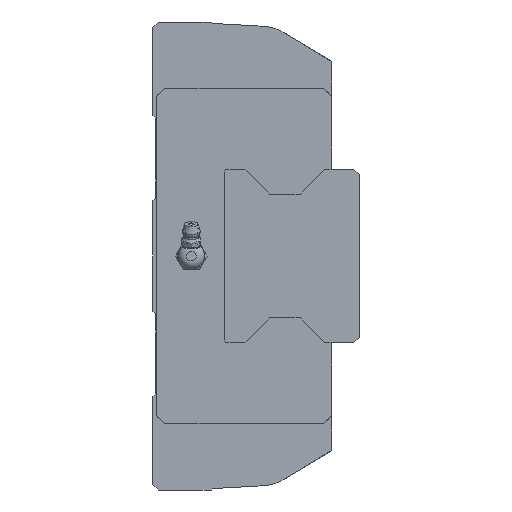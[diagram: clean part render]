
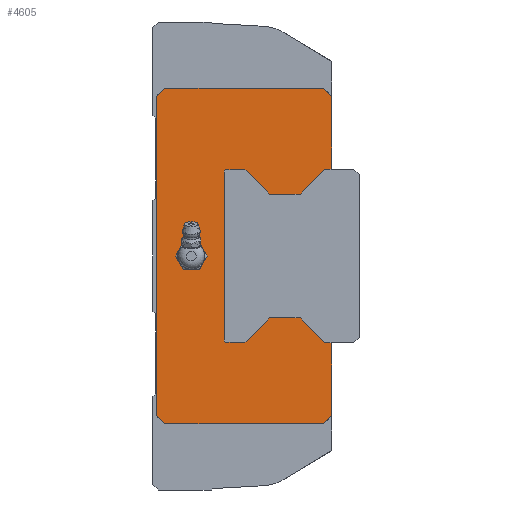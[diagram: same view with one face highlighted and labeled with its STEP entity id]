
A CAD part, left-side view. The second image highlights one B-rep face of the part: STEP entity #4605.
In plain terms, the highlighted planar face has unit normal (-1, 0, 0).
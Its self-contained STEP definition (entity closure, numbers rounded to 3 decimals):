
#261=CIRCLE('',#5001,4.864);
#262=CIRCLE('',#5002,1.);
#263=CIRCLE('',#5003,1.);
#760=ORIENTED_EDGE('',*,*,#1838,.T.);
#761=ORIENTED_EDGE('',*,*,#1839,.T.);
#762=ORIENTED_EDGE('',*,*,#1825,.F.);
#763=ORIENTED_EDGE('',*,*,#1787,.F.);
#764=ORIENTED_EDGE('',*,*,#1783,.F.);
#765=ORIENTED_EDGE('',*,*,#1775,.F.);
#766=ORIENTED_EDGE('',*,*,#1811,.F.);
#767=ORIENTED_EDGE('',*,*,#1760,.F.);
#768=ORIENTED_EDGE('',*,*,#1798,.F.);
#769=ORIENTED_EDGE('',*,*,#1795,.F.);
#770=ORIENTED_EDGE('',*,*,#1827,.F.);
#771=ORIENTED_EDGE('',*,*,#1840,.T.);
#772=ORIENTED_EDGE('',*,*,#1841,.T.);
#773=ORIENTED_EDGE('',*,*,#1842,.T.);
#774=ORIENTED_EDGE('',*,*,#1843,.T.);
#775=ORIENTED_EDGE('',*,*,#1844,.T.);
#776=ORIENTED_EDGE('',*,*,#1845,.T.);
#777=ORIENTED_EDGE('',*,*,#1846,.T.);
#778=ORIENTED_EDGE('',*,*,#1847,.T.);
#779=ORIENTED_EDGE('',*,*,#1805,.T.);
#780=ORIENTED_EDGE('',*,*,#1848,.T.);
#781=ORIENTED_EDGE('',*,*,#1849,.T.);
#782=ORIENTED_EDGE('',*,*,#1850,.T.);
#783=ORIENTED_EDGE('',*,*,#1851,.T.);
#784=ORIENTED_EDGE('',*,*,#1852,.T.);
#785=ORIENTED_EDGE('',*,*,#1853,.T.);
#786=ORIENTED_EDGE('',*,*,#1854,.T.);
#1760=EDGE_CURVE('',#2349,#2350,#2759,.T.);
#1775=EDGE_CURVE('',#2364,#2365,#2774,.T.);
#1783=EDGE_CURVE('',#2365,#2371,#2781,.T.);
#1787=EDGE_CURVE('',#2371,#2373,#2785,.T.);
#1795=EDGE_CURVE('',#2380,#2381,#2793,.T.);
#1798=EDGE_CURVE('',#2381,#2349,#2796,.T.);
#1805=EDGE_CURVE('',#2384,#2386,#2802,.T.);
#1811=EDGE_CURVE('',#2350,#2364,#2808,.T.);
#1825=EDGE_CURVE('',#2373,#2388,#2819,.T.);
#1827=EDGE_CURVE('',#2397,#2380,#2821,.T.);
#1838=EDGE_CURVE('',#2407,#2407,#261,.T.);
#1839=EDGE_CURVE('',#2408,#2388,#2829,.T.);
#1840=EDGE_CURVE('',#2397,#2409,#2830,.T.);
#1841=EDGE_CURVE('',#2409,#2410,#2831,.T.);
#1842=EDGE_CURVE('',#2410,#2411,#2832,.T.);
#1843=EDGE_CURVE('',#2411,#2412,#2833,.T.);
#1844=EDGE_CURVE('',#2412,#2413,#2834,.T.);
#1845=EDGE_CURVE('',#2413,#2414,#2835,.T.);
#1846=EDGE_CURVE('',#2414,#2415,#2836,.T.);
#1847=EDGE_CURVE('',#2415,#2384,#262,.T.);
#1848=EDGE_CURVE('',#2386,#2416,#263,.T.);
#1849=EDGE_CURVE('',#2416,#2417,#2837,.T.);
#1850=EDGE_CURVE('',#2417,#2418,#2838,.T.);
#1851=EDGE_CURVE('',#2418,#2419,#2839,.T.);
#1852=EDGE_CURVE('',#2419,#2420,#2840,.T.);
#1853=EDGE_CURVE('',#2420,#2421,#2841,.T.);
#1854=EDGE_CURVE('',#2421,#2408,#2842,.T.);
#2349=VERTEX_POINT('',#7023);
#2350=VERTEX_POINT('',#7025);
#2364=VERTEX_POINT('',#7054);
#2365=VERTEX_POINT('',#7056);
#2371=VERTEX_POINT('',#7072);
#2373=VERTEX_POINT('',#7079);
#2380=VERTEX_POINT('',#7094);
#2381=VERTEX_POINT('',#7096);
#2384=VERTEX_POINT('',#7109);
#2386=VERTEX_POINT('',#7113);
#2388=VERTEX_POINT('',#7130);
#2397=VERTEX_POINT('',#7152);
#2407=VERTEX_POINT('',#7175);
#2408=VERTEX_POINT('',#7177);
#2409=VERTEX_POINT('',#7179);
#2410=VERTEX_POINT('',#7181);
#2411=VERTEX_POINT('',#7183);
#2412=VERTEX_POINT('',#7185);
#2413=VERTEX_POINT('',#7187);
#2414=VERTEX_POINT('',#7189);
#2415=VERTEX_POINT('',#7191);
#2416=VERTEX_POINT('',#7194);
#2417=VERTEX_POINT('',#7196);
#2418=VERTEX_POINT('',#7198);
#2419=VERTEX_POINT('',#7200);
#2420=VERTEX_POINT('',#7202);
#2421=VERTEX_POINT('',#7204);
#2759=LINE('',#7024,#3163);
#2774=LINE('',#7055,#3178);
#2781=LINE('',#7071,#3185);
#2785=LINE('',#7078,#3189);
#2793=LINE('',#7095,#3197);
#2796=LINE('',#7100,#3200);
#2802=LINE('',#7114,#3206);
#2808=LINE('',#7123,#3212);
#2819=LINE('',#7149,#3223);
#2821=LINE('',#7154,#3225);
#2829=LINE('',#7176,#3233);
#2830=LINE('',#7178,#3234);
#2831=LINE('',#7180,#3235);
#2832=LINE('',#7182,#3236);
#2833=LINE('',#7184,#3237);
#2834=LINE('',#7186,#3238);
#2835=LINE('',#7188,#3239);
#2836=LINE('',#7190,#3240);
#2837=LINE('',#7195,#3241);
#2838=LINE('',#7197,#3242);
#2839=LINE('',#7199,#3243);
#2840=LINE('',#7201,#3244);
#2841=LINE('',#7203,#3245);
#2842=LINE('',#7205,#3246);
#3163=VECTOR('',#5701,1000.);
#3178=VECTOR('',#5718,1000.);
#3185=VECTOR('',#5731,1000.);
#3189=VECTOR('',#5737,1000.);
#3197=VECTOR('',#5747,1000.);
#3200=VECTOR('',#5752,1000.);
#3206=VECTOR('',#5764,1000.);
#3212=VECTOR('',#5776,1000.);
#3223=VECTOR('',#5797,1000.);
#3225=VECTOR('',#5801,1000.);
#3233=VECTOR('',#5819,1000.);
#3234=VECTOR('',#5820,1000.);
#3235=VECTOR('',#5821,1000.);
#3236=VECTOR('',#5822,1000.);
#3237=VECTOR('',#5823,1000.);
#3238=VECTOR('',#5824,1000.);
#3239=VECTOR('',#5825,1000.);
#3240=VECTOR('',#5826,1000.);
#3241=VECTOR('',#5831,1000.);
#3242=VECTOR('',#5832,1000.);
#3243=VECTOR('',#5833,1000.);
#3244=VECTOR('',#5834,1000.);
#3245=VECTOR('',#5835,1000.);
#3246=VECTOR('',#5836,1000.);
#3652=EDGE_LOOP('',(#760));
#3653=EDGE_LOOP('',(#761,#762,#763,#764,#765,#766,#767,#768,#769,#770,#771,
#772,#773,#774,#775,#776,#777,#778,#779,#780,#781,#782,#783,#784,#785,#786));
#4085=FACE_BOUND('',#3652,.T.);
#4086=FACE_BOUND('',#3653,.T.);
#4395=PLANE('',#5000);
#4605=ADVANCED_FACE('',(#4085,#4086),#4395,.F.);
#5000=AXIS2_PLACEMENT_3D('',#7173,#5815,#5816);
#5001=AXIS2_PLACEMENT_3D('',#7174,#5817,#5818);
#5002=AXIS2_PLACEMENT_3D('',#7192,#5827,#5828);
#5003=AXIS2_PLACEMENT_3D('',#7193,#5829,#5830);
#5701=DIRECTION('',(0.,0.707,0.707));
#5718=DIRECTION('',(0.,-0.707,0.707));
#5731=DIRECTION('',(0.,-1.,0.));
#5737=DIRECTION('',(0.,-0.707,-0.707));
#5747=DIRECTION('',(0.,0.707,-0.707));
#5752=DIRECTION('',(0.,1.,0.));
#5764=DIRECTION('',(0.,0.,1.));
#5776=DIRECTION('',(0.,0.,1.));
#5797=DIRECTION('',(0.,0.,-1.));
#5801=DIRECTION('',(0.,0.,-1.));
#5815=DIRECTION('',(1.,0.,0.));
#5816=DIRECTION('',(0.,0.,-1.));
#5817=DIRECTION('',(1.,0.,0.));
#5818=DIRECTION('',(0.,0.,-1.));
#5819=DIRECTION('',(0.,-1.,0.));
#5820=DIRECTION('',(0.,1.,0.));
#5821=DIRECTION('',(0.,0.707,0.707));
#5822=DIRECTION('',(0.,1.,0.));
#5823=DIRECTION('',(0.,0.707,-0.707));
#5824=DIRECTION('',(0.,1.,0.));
#5825=DIRECTION('',(0.,0.707,0.707));
#5826=DIRECTION('',(0.,1.,0.));
#5827=DIRECTION('',(1.,0.,0.));
#5828=DIRECTION('',(0.,0.,-1.));
#5829=DIRECTION('',(1.,0.,0.));
#5830=DIRECTION('',(0.,0.,-1.));
#5831=DIRECTION('',(0.,-1.,0.));
#5832=DIRECTION('',(0.,-0.707,0.707));
#5833=DIRECTION('',(0.,-1.,0.));
#5834=DIRECTION('',(0.,-0.707,-0.707));
#5835=DIRECTION('',(0.,-1.,0.));
#5836=DIRECTION('',(0.,-0.707,0.707));
#7023=CARTESIAN_POINT('',(-190.,60.6,-61.));
#7024=CARTESIAN_POINT('',(-190.,60.6,-61.));
#7025=CARTESIAN_POINT('',(-190.,63.6,-58.));
#7054=CARTESIAN_POINT('',(-190.,63.6,58.));
#7055=CARTESIAN_POINT('',(-190.,63.6,58.));
#7056=CARTESIAN_POINT('',(-190.,60.6,61.));
#7071=CARTESIAN_POINT('',(-190.,60.6,61.));
#7072=CARTESIAN_POINT('',(-190.,3.,61.));
#7078=CARTESIAN_POINT('',(-190.,3.,61.));
#7079=CARTESIAN_POINT('',(-190.,0.,58.));
#7094=CARTESIAN_POINT('',(-190.,0.,-58.));
#7095=CARTESIAN_POINT('',(-190.,0.,-58.));
#7096=CARTESIAN_POINT('',(-190.,3.,-61.));
#7100=CARTESIAN_POINT('',(-190.,3.,-61.));
#7109=CARTESIAN_POINT('',(-190.,39.,-30.5));
#7113=CARTESIAN_POINT('',(-190.,39.,30.5));
#7114=CARTESIAN_POINT('',(-190.,39.,-30.5));
#7123=CARTESIAN_POINT('',(-190.,63.6,-58.));
#7130=CARTESIAN_POINT('',(-190.,0.,31.5));
#7149=CARTESIAN_POINT('',(-190.,0.,58.));
#7152=CARTESIAN_POINT('',(-190.,0.,-31.5));
#7154=CARTESIAN_POINT('',(-190.,0.,58.));
#7173=CARTESIAN_POINT('',(-190.,0.,0.));
#7174=CARTESIAN_POINT('',(-190.,51.,0.));
#7175=CARTESIAN_POINT('',(-190.,51.,-4.864));
#7176=CARTESIAN_POINT('',(-190.,2.5,31.5));
#7177=CARTESIAN_POINT('',(-190.,2.5,31.5));
#7178=CARTESIAN_POINT('',(-190.,-8.,-31.5));
#7179=CARTESIAN_POINT('',(-190.,2.5,-31.5));
#7180=CARTESIAN_POINT('',(-190.,2.5,-31.5));
#7181=CARTESIAN_POINT('',(-190.,11.5,-22.5));
#7182=CARTESIAN_POINT('',(-190.,11.5,-22.5));
#7183=CARTESIAN_POINT('',(-190.,22.5,-22.5));
#7184=CARTESIAN_POINT('',(-190.,22.5,-22.5));
#7185=CARTESIAN_POINT('',(-190.,31.5,-31.5));
#7186=CARTESIAN_POINT('',(-190.,31.5,-31.5));
#7187=CARTESIAN_POINT('',(-190.,36.26,-31.5));
#7188=CARTESIAN_POINT('',(-190.,36.26,-31.5));
#7189=CARTESIAN_POINT('',(-190.,36.51,-31.25));
#7190=CARTESIAN_POINT('',(-190.,36.51,-31.25));
#7191=CARTESIAN_POINT('',(-190.,37.339,-31.25));
#7192=CARTESIAN_POINT('',(-190.,38.,-30.5));
#7193=CARTESIAN_POINT('',(-190.,38.,30.5));
#7194=CARTESIAN_POINT('',(-190.,37.339,31.25));
#7195=CARTESIAN_POINT('',(-190.,37.339,31.25));
#7196=CARTESIAN_POINT('',(-190.,36.51,31.25));
#7197=CARTESIAN_POINT('',(-190.,36.51,31.25));
#7198=CARTESIAN_POINT('',(-190.,36.26,31.5));
#7199=CARTESIAN_POINT('',(-190.,36.26,31.5));
#7200=CARTESIAN_POINT('',(-190.,31.5,31.5));
#7201=CARTESIAN_POINT('',(-190.,31.5,31.5));
#7202=CARTESIAN_POINT('',(-190.,22.5,22.5));
#7203=CARTESIAN_POINT('',(-190.,22.5,22.5));
#7204=CARTESIAN_POINT('',(-190.,11.5,22.5));
#7205=CARTESIAN_POINT('',(-190.,11.5,22.5));
